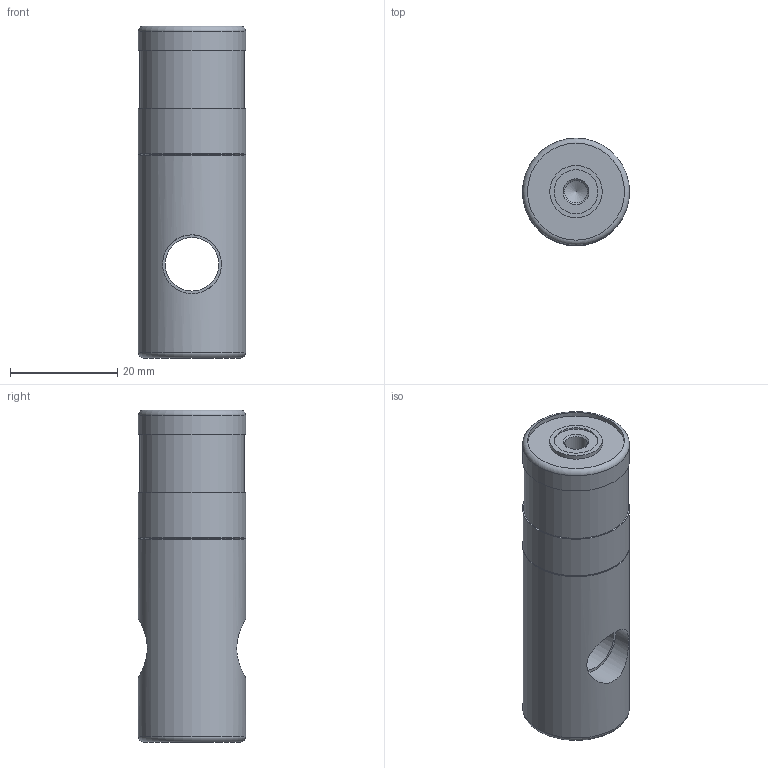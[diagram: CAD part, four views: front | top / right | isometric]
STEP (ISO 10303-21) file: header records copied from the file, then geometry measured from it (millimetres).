
FILE_DESCRIPTION(('STEP AP242'),'1');
FILE_NAME('A.6010 Feststellpatrone.stp','2026-04-23T09:35:05',(' '),(' '),'Spatial InterOp 3D',' ',' ');
FILE_SCHEMA(('AP242_MANAGED_MODEL_BASED_3D_ENGINEERING_MIM_LF {1 0 10303 442 1 1 4}'));
Length unit declared in the file: millimetre
Products named in the file (1): A.6010 Feststellpatrone
Bounding box: 20 x 20 x 62 mm (x, y, z)
Volume: 17331.7 mm3; surface area: 5119.6 mm2
Topology: 1 solids, 1 shells, 26 faces, 48 edges, 30 vertices
Faces by surface type: cylinder 12, plane 8, cone 4, torus 2
Full cylindrical faces by diameter (mm): 4.2 x2, 8.2 x1, 9.8 x1, 10 x1, 11 x2, 18.1 x1, 19.5 x1, 20 x3
Entity records: 979 total; most frequent: CARTESIAN_POINT 234, DIRECTION 102, EDGE_LOOP 52, ORIENTED_EDGE 52, AXIS2_PLACEMENT_3D 51, FACE_OUTER_BOUND 40, STYLED_ITEM 27, PRESENTATION_STYLE_ASSIGNMENT 27
